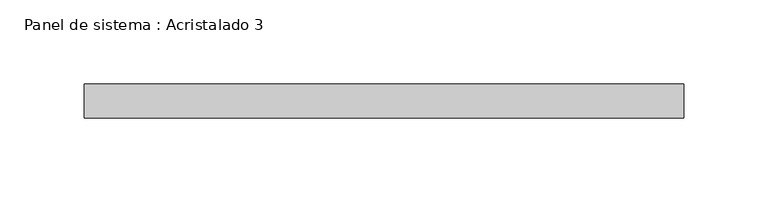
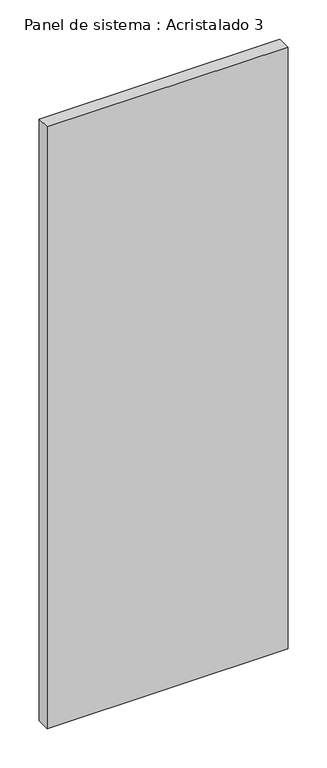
"""IFC4 building model written with IfcOpenShell, lengths in millimetres: plate geometry, Panel de sistema : Acristalado 3."""

from ifc_helpers import new_model, si_unit, origin, origin_with_axes, place, context, project, spatial, polyline, outline, extrude, source, transform, mapped, element, save


def panel_de_sistema_acristalado_3_7e075f51(model_context):
    return source(origin(), model_context, "Body", "SweptSolid", [
        extrude(outline(polyline([(177.3035937, 90.0), (-177.3035937, 90.0), (-177.3035937, 110.0), (177.3035937, 110.0), (177.3035937, 90.0)])), origin_with_axes(), (0.0, 0.0, 1.0), 936.3914841),
    ])


if __name__ == "__main__":
    model = new_model("IFC4")
    model_context = context("Model", 3, world=origin())
    ifc_project = project(units=[si_unit("LENGTHUNIT", "METRE", prefix="MILLI")], contexts=[model_context])
    site = spatial("IfcSite", under=ifc_project)
    building = spatial("IfcBuilding", under=site)
    placement = place(None, origin())
    panel_de_sistema_acristalado_3_shape = panel_de_sistema_acristalado_3_7e075f51(model_context)
    element("IfcPlate", 1, ObjectType="Panel de sistema : Acristalado 3", at=placement, inside=building, context=model_context, shape_type="MappedRepresentation", body=[
        mapped(panel_de_sistema_acristalado_3_shape, transform((0.0, 0.0, 0.0), x_axis=(1.0, 0.0, 0.0), y_axis=(0.0, 1.0, 0.0), z_axis=(0.0, 0.0, 1.0))),
    ])
    save(model, "model.ifc")
